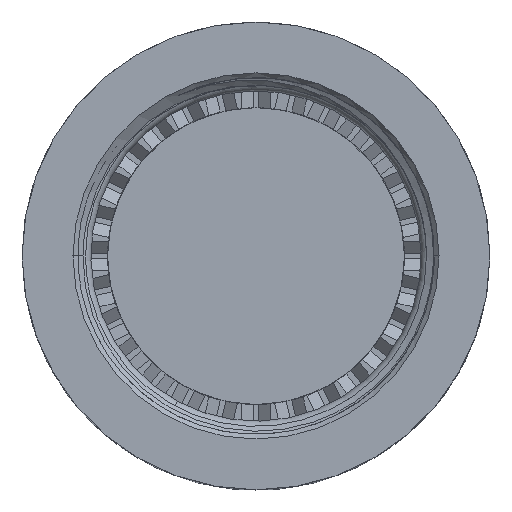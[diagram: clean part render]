
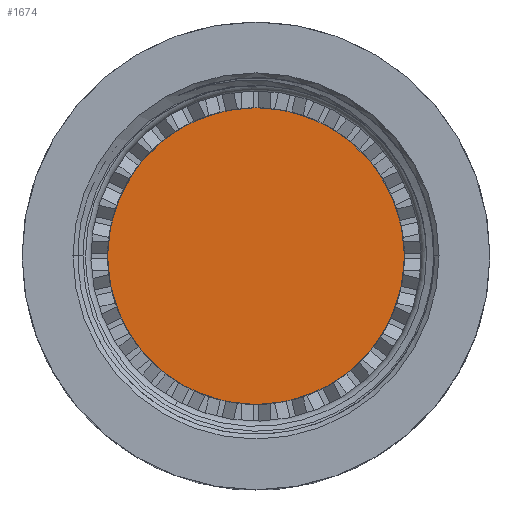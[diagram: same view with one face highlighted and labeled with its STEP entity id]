
A CAD part, top view. The second image highlights one B-rep face of the part: STEP entity #1674.
In plain terms, the highlighted planar face has unit normal (0, 0, 1).
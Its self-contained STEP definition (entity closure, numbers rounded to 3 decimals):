
#868 = ORIENTED_EDGE ( 'NONE', *, *, #6023, .T. ) ;
#993 = CARTESIAN_POINT ( 'NONE',  ( 10.338, 0., -1.574 ) ) ;
#1420 = EDGE_LOOP ( 'NONE', ( #2593, #868 ) ) ;
#1674 = ADVANCED_FACE ( 'NONE', ( #12703 ), #2368, .F. ) ;
#2334 = AXIS2_PLACEMENT_3D ( 'NONE', #5431, #4811, #9454 ) ;
#2368 = PLANE ( 'NONE',  #2536 ) ;
#2536 = AXIS2_PLACEMENT_3D ( 'NONE', #10810, #14991, #12009 ) ;
#2593 = ORIENTED_EDGE ( 'NONE', *, *, #13053, .T. ) ;
#2693 = VERTEX_POINT ( 'NONE', #993 ) ;
#4811 = DIRECTION ( 'NONE',  ( 0., 0., 1. ) ) ;
#5431 = CARTESIAN_POINT ( 'NONE',  ( 0., 0., -1.574 ) ) ;
#5735 = CIRCLE ( 'NONE', #2334, 10.338 ) ;
#6023 = EDGE_CURVE ( 'NONE', #8172, #2693, #5735, .T. ) ;
#6392 = CIRCLE ( 'NONE', #12396, 10.338 ) ;
#7637 = CARTESIAN_POINT ( 'NONE',  ( -10.338, 0., -1.574 ) ) ;
#7842 = DIRECTION ( 'NONE',  ( 0., 0., 1. ) ) ;
#8172 = VERTEX_POINT ( 'NONE', #7637 ) ;
#8982 = DIRECTION ( 'NONE',  ( -1., 0., 0. ) ) ;
#9454 = DIRECTION ( 'NONE',  ( -1., 0., 0. ) ) ;
#10810 = CARTESIAN_POINT ( 'NONE',  ( 0., 0., -1.574 ) ) ;
#12009 = DIRECTION ( 'NONE',  ( -1., 0., 0. ) ) ;
#12396 = AXIS2_PLACEMENT_3D ( 'NONE', #13817, #7842, #8982 ) ;
#12703 = FACE_OUTER_BOUND ( 'NONE', #1420, .T. ) ;
#13053 = EDGE_CURVE ( 'NONE', #2693, #8172, #6392, .T. ) ;
#13817 = CARTESIAN_POINT ( 'NONE',  ( 0., 0., -1.574 ) ) ;
#14991 = DIRECTION ( 'NONE',  ( 0., 0., -1. ) ) ;
